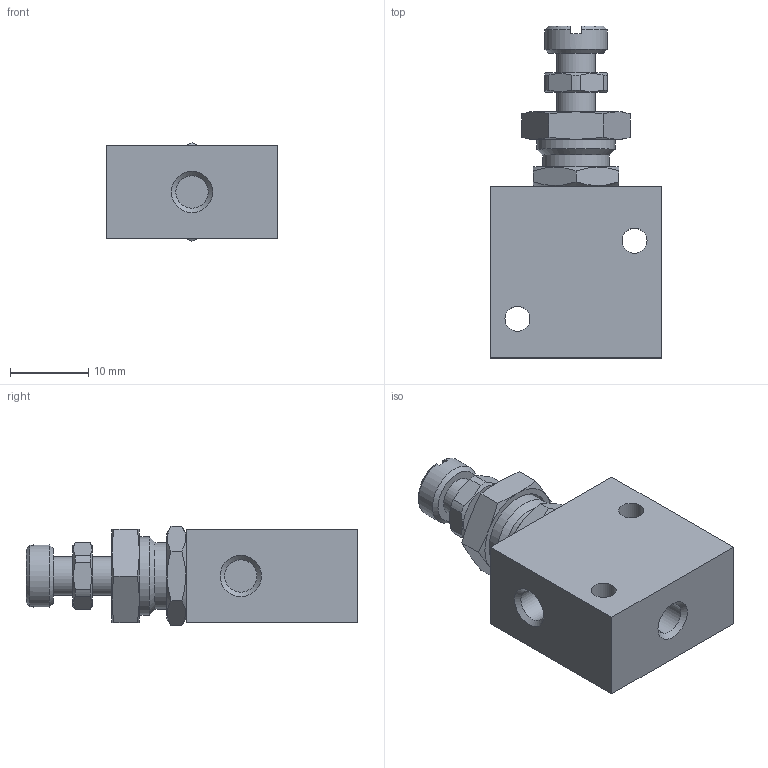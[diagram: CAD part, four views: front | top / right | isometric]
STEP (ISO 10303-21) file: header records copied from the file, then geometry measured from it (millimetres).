
FILE_DESCRIPTION(/* description */ (''),/* implementation_level */ '2;1');
FILE_NAME(/* name */ 'I:\Area Tecnica\Disegni\VARIE-3D\Componenti\600\6_01_05_##\6_01_05_90.stp',/* time_stamp */ '2017-01-04T08:26:04+01:00',/* author */ ('maniean1'),/* organization */ ('Pneumax S.p.A.'),/* preprocessor_version */ 'ST-DEVELOPER v15.2',/* originating_system */ 'Autodesk Inventor 2014',/* authorisation */ '');
FILE_SCHEMA (('AUTOMOTIVE_DESIGN { 1 0 10303 214 3 1 1 }'));
Length unit declared in the file: millimetre
Products named in the file (3): 6_01_05_90-#(A); 6_01_05_(B); 6_01_05_90
Bounding box: 22 x 42.5 x 12.7 mm (x, y, z)
Volume: 6810.4 mm3; surface area: 3396.7 mm2
Topology: 2 solids, 2 shells, 79 faces, 182 edges, 115 vertices
Faces by surface type: plane 38, cone 25, cylinder 16
Full cylindrical faces by diameter (mm): 3.2 x2, 4.134 x2, 5 x2, 8 x1, 8.5 x1, 8.917 x1, 10 x1
Entity records: 2159 total; most frequent: CARTESIAN_POINT 452, DIRECTION 330, ORIENTED_EDGE 310, EDGE_CURVE 155, AXIS2_PLACEMENT_3D 143, EDGE_LOOP 114, VERTEX_POINT 109, ADVANCED_FACE 79
